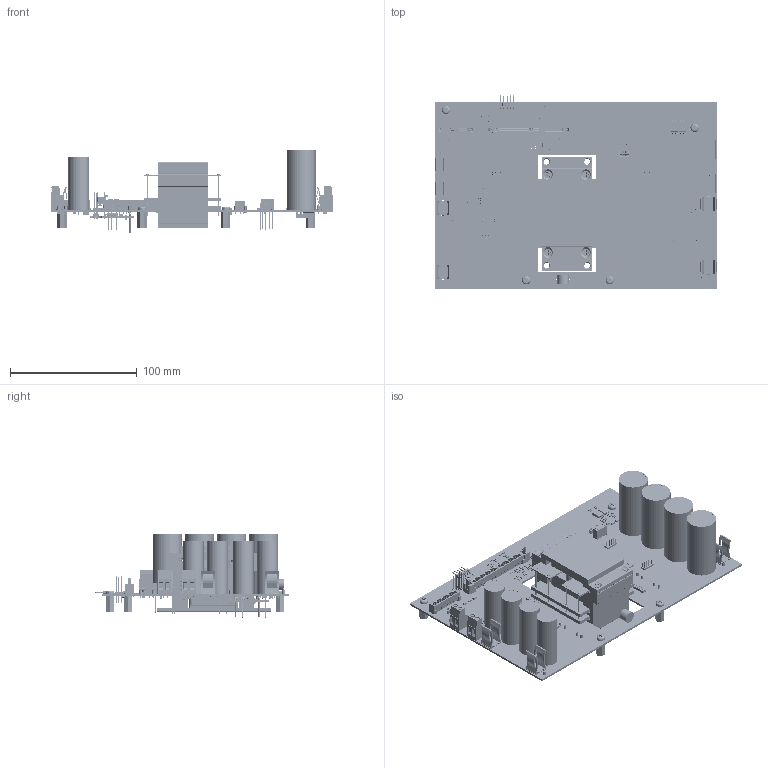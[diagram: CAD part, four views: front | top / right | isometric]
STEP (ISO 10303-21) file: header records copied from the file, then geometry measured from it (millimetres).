
FILE_DESCRIPTION(('Open CASCADE Model'),'2;1');
FILE_NAME('Open CASCADE Shape Model','2019-03-28T21:47:47',('Author'),( 'Open CASCADE'),'Open CASCADE STEP processor 6.8','Open CASCADE 6.8' ,'Unknown');
FILE_SCHEMA(('AUTOMOTIVE_DESIGN { 1 0 10303 214 1 1 1 1 }'));
Length unit declared in the file: millimetre
Products named in the file (512): PCB; Board; T100; VA-18191; VA-18191_Core-1; VA-18191_Core-2; VA-18191_Heat_sink-4; VA-18191_Heat_sink-Base; VA-18191_Heat_sink-3; M3_screw十字皿頭; r0-va-18191-asm-1221; R0-SEC-1214_ASM; SEC-1; SEC-2; SEC-3; SEC-VIA-1; SEC-VIA-2; SEC-PWB-1214; R0-PRI-1214_ASM; PRI-1; PRI-2; PRI-3; PRI-4; PRI-VIA-1; PRI-VIA-2; PRI-VIA-3; PRI-PWB-1214; R0-L3-1214_ASM; L3-1; L3-2; L3-3; L3-VIA-1; L3-VIA-2; CHOKE-PWB-1214; R0-L1-1214_ASM; L1-1; L1-2; L1-3; L1-VIA-1; L1-VIA-2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
Assembly tree (1238 placements, depth 6):
  PCB
    Board
    T100
      VA-18191
        VA-18191_Core-1  x2
        VA-18191_Core-2
        VA-18191_Heat_sink-4
        VA-18191_Heat_sink-Base
        VA-18191_Heat_sink-3  x2
        M3_screw十字皿頭  x8
        r0-va-18191-asm-1221
          R0-SEC-1214_ASM  x2
            SEC-1
            SEC-2
            SEC-3
            SEC-VIA-1
            SEC-VIA-2
            SEC-PWB-1214
          R0-PRI-1214_ASM  x2
            PRI-1
            PRI-2
            PRI-3
            PRI-4
            PRI-VIA-1
            PRI-VIA-2
            PRI-VIA-3
            PRI-PWB-1214
          R0-L3-1214_ASM
            L3-1
            L3-2
            L3-3
            L3-VIA-1
            L3-VIA-2
            CHOKE-PWB-1214
          R0-L1-1214_ASM
            L1-1
            L1-2
            L1-3
            L1-VIA-1
            L1-VIA-2
            CHOKE-2-PWB-1221
          PIN-1130  x8
    QSL1H_S
      0312-0-15-15-34-27-10-0
    QSL1H_D
      0312-0-15-15-34-27-10-0
    QSL1L_S
      0312-0-15-15-34-27-10-0
    QSL1L_D
      0312-0-15-15-34-27-10-0
    C125
      B58031I_1084x785x450
    R216
      1194818984  x2
        Extruded
      1194819120
        Extruded
    R206
      1194818984  x2
        Extruded
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Bounding box: 223.52 x 152.58 x 65.62 mm (x, y, z)
Volume: 305333.2 mm3; surface area: 294299.2 mm2
Topology: 963 solids, 963 shells, 19390 faces, 49891 edges, 32571 vertices
Faces by surface type: plane 13988, cylinder 4872, cone 253, sphere 170, torus 69, bspline 34, revolution 4
Full cylindrical faces by diameter (mm): 0.393 x2, 0.762 x4, 0.84 x2, 0.85 x10, 0.86 x20, 0.889 x5, 0.89 x64, 0.9 x6, 1.016 x9, 1.04 x8, 1.092 x4, 1.1 x13, 1.12 x2, 1.27 x4, 1.4 x10, 1.6 x16, 1.702 x8, 1.829 x16, 1.9 x10, 1.905 x16, 2.2 x8, 2.311 x16, 2.5 x9, 2.845 x56, 3.2 x8, 3.61 x4, 4 x2, 6.604 x4, 7.112 x1, 9 x1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
Entity records: 374212 total; most frequent: CARTESIAN_POINT 65621, ORIENTED_EDGE 56348, DIRECTION 55645, EDGE_CURVE 28174, LINE 21383, VECTOR 21383, VERTEX_POINT 18580, AXIS2_PLACEMENT_3D 17129
